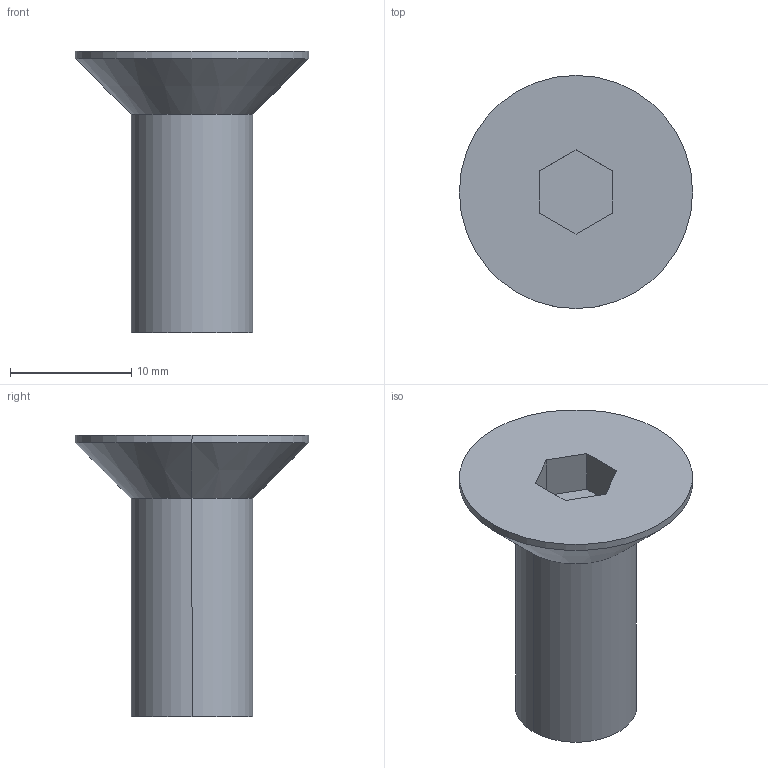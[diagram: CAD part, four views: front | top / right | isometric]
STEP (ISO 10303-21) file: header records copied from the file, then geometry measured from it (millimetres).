
FILE_DESCRIPTION (( 'STEP AP214' ), '1' );
FILE_NAME ('COUNTERSHUNK_HEAD_BOLT_M10(L=018).STEP', '2021-09-18T10:20:37', ( '' ), ( '' ), 'SwSTEP 2.0', 'SolidWorks 2018', '' );
FILE_SCHEMA (( 'AUTOMOTIVE_DESIGN' ));
Length unit declared in the file: millimetre
Products named in the file (1): COUNTERSHUNK_HEAD_BOLT_M10(L=018)
Bounding box: 19.22 x 19.22 x 23.22 mm (x, y, z)
Volume: 2277 mm3; surface area: 1345.1 mm2
Topology: 1 solids, 1 shells, 15 faces, 32 edges, 20 vertices
Faces by surface type: plane 9, cylinder 4, cone 2
Entity records: 436 total; most frequent: DIRECTION 72, CARTESIAN_POINT 68, ORIENTED_EDGE 64, EDGE_CURVE 32, LINE 24, VECTOR 24, AXIS2_PLACEMENT_3D 24, VERTEX_POINT 20
